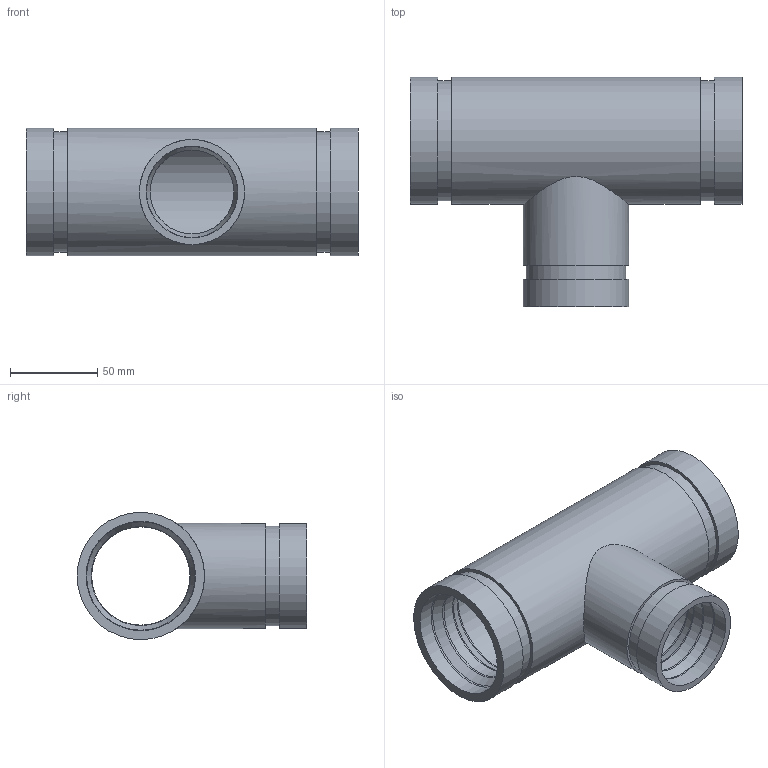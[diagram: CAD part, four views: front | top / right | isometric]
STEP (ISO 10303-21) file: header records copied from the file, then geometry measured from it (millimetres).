
FILE_DESCRIPTION(/* description */ ('VIC REDUCING TEE No 425H-SS','CAx-IF Rec.Pracs.---Representation and Presentation of Product Manufacturing Information (PMI)---4.0---2014-10-13'),/* implementation_level */ '2;1');
FILE_NAME(/* name */ 'C:\Users\kkamble\AppData\Roaming\Autodesk\ApplicationPlugins\Back Up\Victaulic_SS-OGS_Tee Reducing_Sched 40S_No 425H SS (OGS)\Victaulic_SS-OGS_Tee Reducing_Sched 40S_No 425H SS (OGS)_02.5x02.0 (65x50).stp',/* time_stamp */ '2020-08-27T17:19:37+06:00',/* author */ ('CORINNE GRAY'),/* organization */ ('Victaulic'),/* preprocessor_version */ 'ST-DEVELOPER v17.2',/* originating_system */ 'Autodesk Inventor 2019',/* authorisation */ '');
FILE_SCHEMA (('AP242_MANAGED_MODEL_BASED_3D_ENGINEERING_MIM_LF { 1 0 10303 442 1 1 4 }'));
Length unit declared in the file: inch
Products named in the file (1): 425H SS-02.5x02.0
Bounding box: 190.5 x 131.76 x 73.03 mm (x, y, z)
Volume: 254386.7 mm3; surface area: 104604.3 mm2
Topology: 1 solids, 1 shells, 43 faces, 134 edges, 100 vertices
Faces by surface type: cylinder 16, torus 12, plane 9, cone 6
Full cylindrical faces by diameter (mm): 48.006 x1, 52.578 x2, 56.388 x2, 57.15 x1, 60.325 x2, 62.738 x3, 69.088 x2, 73.025 x3
Entity records: 1919 total; most frequent: CARTESIAN_POINT 427, DIRECTION 352, ORIENTED_EDGE 268, AXIS2_PLACEMENT_3D 165, EDGE_CURVE 134, CIRCLE 108, VERTEX_POINT 100, EDGE_LOOP 54
